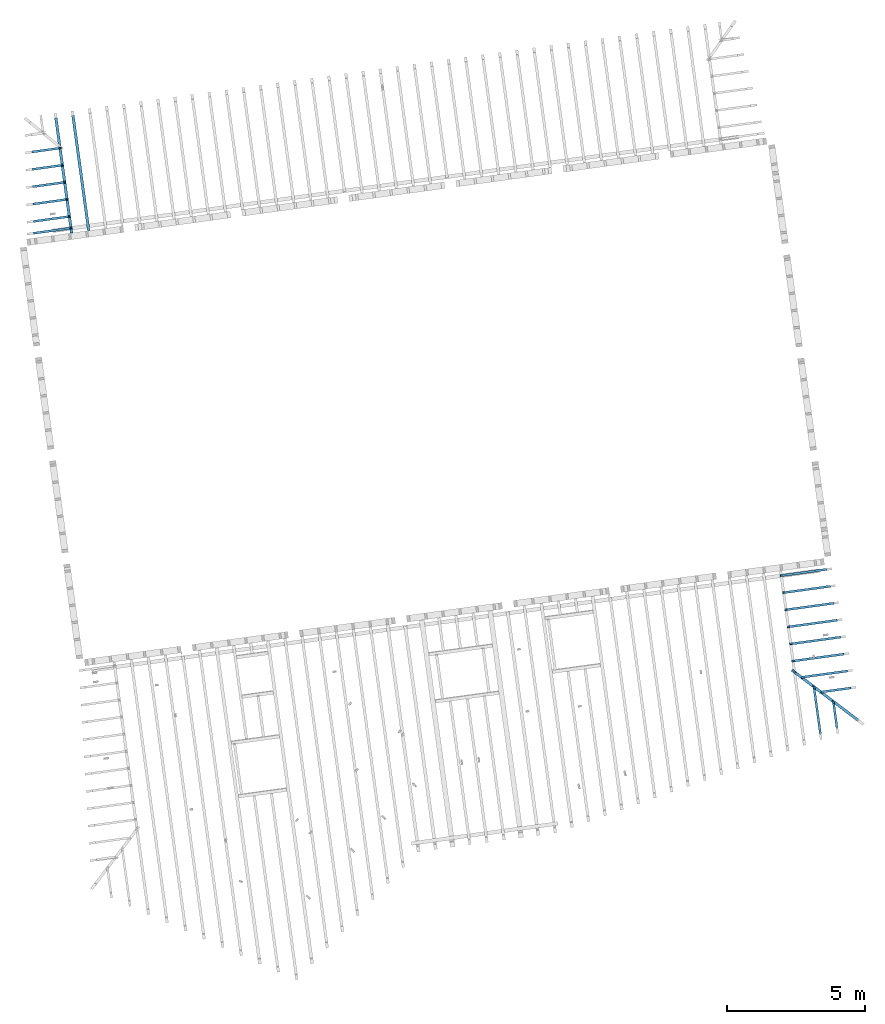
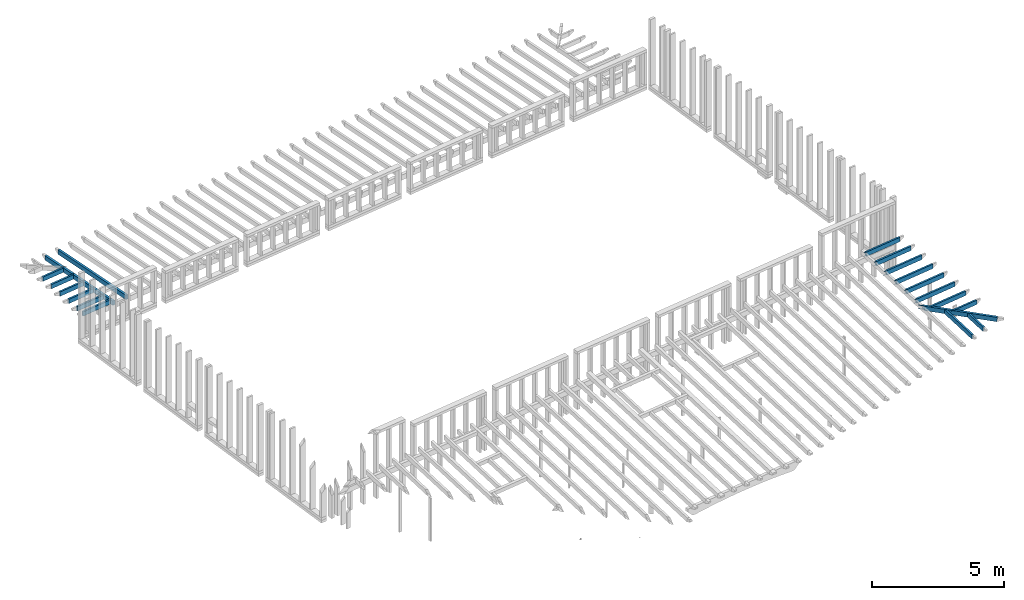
# One storey, part 9 of 16: 19 building element parts, 19 elements without a shape of their own.
"""IFC2X3 building model written with IfcOpenShell, lengths in metres."""

import ifcopenshell
import ifcopenshell.guid

model = None  # the IFC model being written
_history = None  # IfcOwnerHistory: only IFC2X3 demands one
_inside = {}  # id of a spatial element -> (the spatial element, [elements in it])
_under = {}  # id of a project, library or spatial element -> (it, [spatial elements below it])
_declared = {}  # id of a project -> (the project, [libraries it declares])
_typed = {}  # id of a type object -> (the type object, [elements of that type])
_made_of = {}  # id of a material, layer set ... -> (it, [elements and type objects made of it])


def new_model(schema):
    """Start an empty IFC model of exactly this schema.

    Asked for "IFC4X3", IfcOpenShell would pick the latest addendum, in which some entities
    have other attributes; the version numbers below select the first issue.
    IFC2X3 requires an IfcOwnerHistory on every rooted entity: one is made here for all.
    """
    global model, _history
    if schema == "IFC4X3":
        model = ifcopenshell.file(schema_version=(4, 3, 0, 0))
    else:
        model = ifcopenshell.file(schema=schema)
    _inside.clear()
    _under.clear()
    _declared.clear()
    _typed.clear()
    _made_of.clear()
    _history = None
    if model.schema == "IFC2X3":
        org = make("IfcOrganization", Name="unknown")
        user = make(
            "IfcPersonAndOrganization",
            ThePerson=make("IfcPerson", FamilyName="unknown"),
            TheOrganization=org,
        )
        app = make(
            "IfcApplication",
            ApplicationDeveloper=org,
            Version="unknown",
            ApplicationFullName="unknown",
            ApplicationIdentifier="unknown",
        )
        _history = make(
            "IfcOwnerHistory",
            OwningUser=user,
            OwningApplication=app,
            ChangeAction="ADDED",
            CreationDate=0,
        )
    return model


def make(cls, **values):
    """One entity of the class cls with the attributes given. An attribute that is None is left unset."""
    return model.create_entity(
        cls, **{name: value for name, value in values.items() if value is not None}
    )


def entity(cls, *values):
    """Any entity or typed value of the class cls, its attributes in the order of the schema. None: left unset."""
    e = model.create_entity(cls)
    for i, value in enumerate(values):
        if value is not None:
            e[i] = value
    return e


def rooted(cls, **values):
    """An entity with a GlobalId (a new one), such as an element, a storey or a relation."""
    return make(cls, GlobalId=ifcopenshell.guid.new(), OwnerHistory=_history, **values)


def si_unit(unit_type, name, prefix=None):
    """IfcSIUnit, for example si_unit("LENGTHUNIT", "METRE", prefix="MILLI")."""
    return make("IfcSIUnit", UnitType=unit_type, Prefix=prefix, Name=name)


def converted_unit(unit_type, name, factor, base, dimensions=None, offset=None):
    """IfcConversionBasedUnit, such as the inch: factor (a typed value) times the base unit."""
    return make(
        "IfcConversionBasedUnit"
        if offset is None
        else "IfcConversionBasedUnitWithOffset",
        ConversionOffset=offset,
        Dimensions=None
        if dimensions is None
        else entity("IfcDimensionalExponents", *dimensions),
        UnitType=unit_type,
        Name=name,
        ConversionFactor=make(
            "IfcMeasureWithUnit", ValueComponent=factor, UnitComponent=base
        ),
    )


def derived_unit(unit_type, elements):
    """IfcDerivedUnit: a product of units, each with its exponent."""
    return make(
        "IfcDerivedUnit",
        Elements=[
            make("IfcDerivedUnitElement", Unit=unit, Exponent=power)
            for unit, power in elements
        ],
        UnitType=unit_type,
    )


def money_unit(currency):
    """IfcMonetaryUnit."""
    return make("IfcMonetaryUnit", Currency=currency)


def assignment(units):
    """IfcUnitAssignment: the units of a project."""
    return None if units is None else make("IfcUnitAssignment", Units=units)


def point(xyz):
    """IfcCartesianPoint."""
    return None if xyz is None else make("IfcCartesianPoint", Coordinates=xyz)


def direction(xyz):
    """IfcDirection."""
    return None if xyz is None else make("IfcDirection", DirectionRatios=xyz)


def frame(location, z_axis=None, x_axis=None):
    """IfcAxis2Placement3D, a coordinate frame: its origin and axes. An axis left out is left unset."""
    return make(
        "IfcAxis2Placement3D",
        Location=point(location),
        Axis=direction(z_axis),
        RefDirection=direction(x_axis),
    )


def origin_with_axes():
    """The frame at (0, 0, 0) with the z axis (0, 0, 1) and the x axis (1, 0, 0) written out."""
    return frame((0.0, 0.0, 0.0), z_axis=(0.0, 0.0, 1.0), x_axis=(1.0, 0.0, 0.0))


def place(relative_to, where):
    """IfcLocalPlacement: puts the frame where relative to a parent placement (None: the world)."""
    return make(
        "IfcLocalPlacement", PlacementRelTo=relative_to, RelativePlacement=where
    )


def context(
    kind, dimensions, precision=None, world=None, true_north=None, identifier=None
):
    """IfcGeometricRepresentationContext, for example the 3D "Model" context."""
    return make(
        "IfcGeometricRepresentationContext",
        ContextIdentifier=identifier,
        ContextType=kind,
        CoordinateSpaceDimension=dimensions,
        Precision=precision,
        WorldCoordinateSystem=world,
        TrueNorth=true_north,
    )


def subcontext(parent, identifier, kind, view, scale=None):
    """IfcGeometricRepresentationSubContext, for example "Body" below "Model"."""
    return make(
        "IfcGeometricRepresentationSubContext",
        ContextIdentifier=identifier,
        ContextType=kind,
        ParentContext=parent,
        TargetScale=scale,
        TargetView=view,
    )


def project(units=None, contexts=None):
    """IfcProject with its units and contexts."""
    return rooted(
        "IfcProject",
        Name="project",
        RepresentationContexts=contexts,
        UnitsInContext=assignment(units),
    )


def spatial(cls, under=None, at=None, **own):
    """A site, building, storey or space (cls), placed at a placement, below another one or the project."""
    s = rooted(cls, ObjectPlacement=at, **own)
    if under is not None:
        _under.setdefault(under.id(), (under, []))[1].append(s)
    return s


def faces_of(points, faces, orient=None, outer=None):
    """IfcFace entities. A face is a list of loops; a loop is a list of indices into points, from 0.

    orient and outer hold one flag for each loop. By default every Orientation is true, the
    first loop of a face is its IfcFaceOuterBound and the others are IfcFaceBound.
    """
    made = []
    for i, loops in enumerate(faces):
        bounds = []
        for j, loop in enumerate(loops):
            is_outer = j == 0 if outer is None else outer[i][j]
            bounds.append(
                make(
                    "IfcFaceOuterBound" if is_outer else "IfcFaceBound",
                    Bound=make("IfcPolyLoop", Polygon=[points[k] for k in loop]),
                    Orientation=True if orient is None else orient[i][j],
                )
            )
        made.append(make("IfcFace", Bounds=bounds))
    return made


def faceted_brep(points, faces, orient=None, outer=None, voids=None):
    """IfcFacetedBrep: a solid bounded by flat faces; with voids (closed shells), ...WithVoids."""
    shared = [point(p) for p in points]
    hull = make("IfcClosedShell", CfsFaces=faces_of(shared, faces, orient, outer))
    if voids is None:
        return make("IfcFacetedBrep", Outer=hull)
    return make(
        "IfcFacetedBrepWithVoids",
        Outer=hull,
        Voids=[
            make(cls, CfsFaces=faces_of(shared, fs, o, b)) for cls, fs, o, b in voids
        ],
    )


def shape(context_of_items, identifier, shape_type, items):
    """IfcShapeRepresentation: the items that make up one representation, for example the "Body"."""
    return make(
        "IfcShapeRepresentation",
        ContextOfItems=context_of_items,
        RepresentationIdentifier=identifier,
        RepresentationType=shape_type,
        Items=items,
    )


def material(Name=None, Category=None):
    """IfcMaterial."""
    return make("IfcMaterial", Name=Name, Category=Category)


def made_of(thing, what):
    """Note that an element or type object is made of a material, layer set ...; save() writes the relation."""
    if what is not None:
        _made_of.setdefault(what.id(), (what, []))[1].append(thing)
    return thing


def type_object(cls, material=None, **own):
    """A type object (cls), such as IfcWallType, which elements share."""
    return made_of(rooted(cls, **own), material)


def element(
    cls,
    number,
    at=None,
    inside=None,
    cuts=None,
    type_object=None,
    material=None,
    context=None,
    identifier="Body",
    shape_type=None,
    held_by="IfcProductDefinitionShape",
    body=None,
    shapes=None,
    **own,
):
    """One element of the class cls, such as IfcWall. Its Tag is "e" and its number.

    at: its placement. inside: the storey or other place that contains it. cuts: it is an
    opening in that element (IfcRelVoidsElement). A single representation is given by context,
    identifier, shape_type and body (its items); several are given by shapes. held_by: the class
    of the entity that holds the representations. save() writes the other relations.
    """
    e = rooted(cls, Tag="e%d" % number, ObjectPlacement=at, **own)
    if body is not None:
        shapes = [shape(context, identifier, shape_type, body)]
    if shapes is not None:
        e.Representation = make(held_by, Representations=shapes)
    if inside is not None:
        _inside.setdefault(inside.id(), (inside, []))[1].append(e)
    if cuts is not None:
        rooted(
            "IfcRelVoidsElement", RelatingBuildingElement=cuts, RelatedOpeningElement=e
        )
    if type_object is not None:
        _typed.setdefault(type_object.id(), (type_object, []))[1].append(e)
    return made_of(e, material)


def aggregate(whole, parts):
    """IfcRelAggregates: a whole, such as a stair, and the parts it consists of."""
    return rooted("IfcRelAggregates", RelatingObject=whole, RelatedObjects=parts)


def save(model, path):
    """Write the relations noted so far, then the file.

    IfcRelAggregates (storeys below a building ...), IfcRelContainedInSpatialStructure (elements
    in a storey), IfcRelDefinesByType, IfcRelAssociatesMaterial and IfcRelDeclares: one each for
    every whole, place, type object, material and project.
    """
    for whole, parts in _under.values():
        aggregate(whole, parts)
    for where, things in _inside.values():
        rooted(
            "IfcRelContainedInSpatialStructure",
            RelatedElements=things,
            RelatingStructure=where,
        )
    for kind, things in _typed.values():
        rooted("IfcRelDefinesByType", RelatedObjects=things, RelatingType=kind)
    for what, things in _made_of.values():
        rooted("IfcRelAssociatesMaterial", RelatedObjects=things, RelatingMaterial=what)
    for by, libraries in _declared.values():
        rooted("IfcRelDeclares", RelatingContext=by, RelatedDefinitions=libraries)
    model.write(path)


model = new_model("IFC2X3")

# Units and contexts
model_context = context("Model", 3, precision=1e-05, world=origin_with_axes(), true_north=direction((0.0, 1.0)))
body_context = subcontext(model_context, "Body", "Model", "MODEL_VIEW")
ifc_project = project(units=[si_unit("LENGTHUNIT", "METRE"), si_unit("AREAUNIT", "SQUARE_METRE"), si_unit("VOLUMEUNIT", "CUBIC_METRE"), converted_unit("PLANEANGLEUNIT", "DEGREE", entity("IfcPlaneAngleMeasure", 0.0174532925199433), si_unit("PLANEANGLEUNIT", "RADIAN"), dimensions=[0, 0, 0, 0, 0, 0, 0]), money_unit("EUR"), converted_unit("TIMEUNIT", "Year", entity("IfcTimeMeasure", 31557600.0), si_unit("TIMEUNIT", "SECOND"), dimensions=[0, 0, 1, 0, 0, 0, 0]), si_unit("MASSUNIT", "GRAM", prefix="KILO"), si_unit("THERMODYNAMICTEMPERATUREUNIT", "DEGREE_CELSIUS"), si_unit("LUMINOUSINTENSITYUNIT", "LUMEN"), si_unit("ENERGYUNIT", "JOULE", prefix="MEGA"), derived_unit("THERMALCONDUCTANCEUNIT", [(si_unit("POWERUNIT", "WATT"), 1), (si_unit("LENGTHUNIT", "METRE"), -1), (si_unit("THERMODYNAMICTEMPERATUREUNIT", "KELVIN"), -1)]), derived_unit("SPECIFICHEATCAPACITYUNIT", [(si_unit("ENERGYUNIT", "JOULE"), 1), (si_unit("MASSUNIT", "GRAM", prefix="KILO"), -1), (si_unit("THERMODYNAMICTEMPERATUREUNIT", "KELVIN"), -1)]), derived_unit("MASSDENSITYUNIT", [(si_unit("MASSUNIT", "GRAM", prefix="KILO"), 1), (si_unit("VOLUMEUNIT", "CUBIC_METRE"), -1)])], contexts=[model_context])

# Site, building, storey
site_placement = place(None, origin_with_axes())
site = spatial("IfcSite", under=ifc_project, at=site_placement, Name="Gelände", CompositionType="ELEMENT")
building_placement = place(site_placement, origin_with_axes())
building = spatial("IfcBuilding", under=site, at=building_placement, Name="Gebäude", CompositionType="ELEMENT")
storey_placement = place(building_placement, frame((0.0, 0.0, 3.0), z_axis=(0.0, 0.0, 1.0), x_axis=(1.0, 0.0, 0.0)))
storey = spatial("IfcBuildingStorey", under=building, at=storey_placement, Name="ZG", CompositionType="ELEMENT", Elevation=3.0)

# Beam, building element part
beam_type_1 = type_object("IfcBeamType", Name="Verschiedene Strukturen - 2 Segmente - 100 x 200 x 4381 (4214+167)", PredefinedType="NOTDEFINED")
beam_1_placement = place(storey_placement, frame((86.89870892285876, -135.3424017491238, 1.028226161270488), z_axis=(0.0, 0.0, 1.0), x_axis=(0.9907484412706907, 0.1357111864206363, 0.0)))
beam_1 = element("IfcBeam", 1, at=beam_1_placement, inside=storey, type_object=beam_type_1, Name="Unterzug-034")
ifc_material = material(Name="Holz, Bauholz-hart")
building_element_part_1_placement = place(beam_1_placement, origin_with_axes())
building_element_part_1 = element("IfcBuildingElementPart", 2, at=building_element_part_1_placement, material=ifc_material, Name="Holz, Bauholz-hart", context=body_context, shape_type="Brep", body=[
    faceted_brep([(-0.04999999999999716, 0.0, -0.2002744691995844), (-0.04999999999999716, 4.197525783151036, -0.4202574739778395), (0.05000000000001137, 4.197525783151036, -0.4202574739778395), (0.04999999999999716, 0.0, -0.2002744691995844), (-0.04999999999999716, 0.0, 0.0), (-0.04999999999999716, 4.207992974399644, -0.2205315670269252), (0.04999999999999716, 4.207992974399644, -0.2205315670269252), (0.04999999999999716, 0.0, 0.0)], [[[0, 1, 2, 3]], [[4, 5, 1, 0]], [[2, 1, 5, 6]], [[3, 2, 6, 7]], [[4, 0, 3, 7]], [[7, 6, 5, 4]]]),
])
aggregate(beam_1, [building_element_part_1])

beam_type_2 = type_object("IfcBeamType", Name="Verschiedene Strukturen - 2 Segmente - 80 x 200 x 1897 (183+1715)", PredefinedType="NOTDEFINED")
beam_2_placement = place(storey_placement, frame((113.8209712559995, -147.5921326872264, 1.799619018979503), z_axis=(0.0, 0.0, 1.0), x_axis=(-0.135711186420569, 0.9907484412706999, 0.0)))
beam_2 = element("IfcBeam", 3, at=beam_2_placement, inside=storey, type_object=beam_type_2, Name="Unterzug-034")
building_element_part_2_placement = place(beam_2_placement, origin_with_axes())
building_element_part_2 = element("IfcBuildingElementPart", 4, at=building_element_part_2_placement, material=ifc_material, Name="Holz, Bauholz-hart", context=body_context, shape_type="Brep", body=[
    faceted_brep([(-0.03999999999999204, 1.897343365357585, -0.005621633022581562), (-0.03999999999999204, 1.797343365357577, -0.005621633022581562), (-0.03999999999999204, 1.797343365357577, -0.2000000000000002), (-0.03999999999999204, 0.1825028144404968, -0.2000000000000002), (-0.03999999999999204, 0.1825028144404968, 0.0), (-0.03999999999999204, 1.8973433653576, 0.0), (-2.60078536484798e-09, 1.797343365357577, 0.0), (-2.600671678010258e-09, 1.897343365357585, 0.0), (0.01398535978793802, 1.797343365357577, -0.2000000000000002), (0.04000000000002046, 1.797343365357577, 0.0), (0.04000000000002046, 1.797343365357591, -0.1963438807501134), (0.01398535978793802, 1.897343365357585, -0.2000000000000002), (0.03999999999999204, 1.897343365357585, -0.2000000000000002), (0.04000000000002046, 0.182502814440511, -0.2000000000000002), (0.04000000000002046, 0.182502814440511, 0.0), (0.03999999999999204, 1.897343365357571, -0.1963438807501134)], [[[0, 1, 2, 3, 4, 5]], [[6, 1, 0, 7]], [[8, 2, 1, 6, 9, 10]], [[2, 8, 11, 12, 13, 3]], [[13, 14, 4, 3]], [[9, 6, 7, 5, 4, 14]], [[5, 7, 0]], [[15, 10, 9, 14, 13, 12]], [[15, 11, 8, 10]], [[12, 11, 15]]]),
])
aggregate(beam_2, [building_element_part_2])

beam_type_3 = type_object("IfcBeamType", Name="Verschiedene Strukturen - 2 Segmente - 80 x 200 x 1981 (183+1798)", PredefinedType="NOTDEFINED")
beam_3_placement = place(storey_placement, frame((114.5740553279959, -151.2739937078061, 1.272590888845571), z_axis=(0.0, 0.0, 1.0), x_axis=(-0.1357111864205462, 0.990748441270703, 0.0)))
beam_3 = element("IfcBeam", 5, at=beam_3_placement, inside=storey, type_object=beam_type_3, Name="Unterzug-034")
building_element_part_3_placement = place(beam_3_placement, origin_with_axes())
building_element_part_3 = element("IfcBuildingElementPart", 6, at=building_element_part_3_placement, material=ifc_material, Name="Holz, Bauholz-hart", context=body_context, shape_type="Brep", body=[
    faceted_brep([(-0.03999999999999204, 1.900763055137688, -0.0006527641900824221), (-0.03999999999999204, 1.759341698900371, -0.01059050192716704), (-0.03999999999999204, 1.759341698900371, -0.2000000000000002), (-0.03999999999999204, 0.1825028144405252, -0.2000000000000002), (-0.03999999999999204, 0.1825028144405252, 0.0), (-0.03999999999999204, 1.980763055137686, 0.0), (-0.03999999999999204, 1.980763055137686, -0.0006527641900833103), (0.03535533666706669, 1.834697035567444, 0.0), (-0.03535534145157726, 1.905407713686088, 0.0), (0.04000000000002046, 1.839341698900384, -0.2000000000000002), (0.03999999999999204, 1.839341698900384, 0.0), (0.04000000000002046, 0.182502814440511, -0.2000000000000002), (0.04000000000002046, 0.182502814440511, 0.0), (-0.03535534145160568, 1.980763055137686, 0.0)], [[[0, 1, 2, 3, 4, 5, 6]], [[7, 1, 0, 8]], [[9, 2, 1, 7, 10]], [[3, 2, 9, 11]], [[11, 12, 4, 3]], [[10, 7, 8, 13, 5, 4, 12]], [[6, 5, 13]], [[13, 8, 0, 6]], [[11, 9, 10, 12]]]),
])
aggregate(beam_3, [building_element_part_3])

beam_type_4 = type_object("IfcBeamType", Name="Verschiedene Strukturen - 2 Segmente - 80 x 200 x 1397 (183+1214)", PredefinedType="NOTDEFINED")
beam_4_placement = place(storey_placement, frame((114.6995693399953, -151.8876372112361, 1.184752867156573), z_axis=(0.0, 0.0, 1.0), x_axis=(-0.1357111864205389, 0.990748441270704, 0.0)))
beam_4 = element("IfcBeam", 7, at=beam_4_placement, inside=storey, type_object=beam_type_4, Name="Unterzug-034")
building_element_part_4_placement = place(beam_4_placement, origin_with_axes())
building_element_part_4 = element("IfcBuildingElementPart", 8, at=building_element_part_4_placement, material=ifc_material, Name="Holz, Bauholz-hart", context=body_context, shape_type="Brep", body=[
    faceted_brep([(-0.03999999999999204, 1.316837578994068, -0.0006527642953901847), (-0.03999999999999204, 1.175416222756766, -0.01059050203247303), (-0.03999999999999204, 1.175416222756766, -0.2000000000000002), (-0.04000000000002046, 0.182502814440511, -0.2000000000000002), (-0.04000000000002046, 0.182502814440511, 0.0), (-0.03999999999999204, 1.396837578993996, 0.0), (-0.03999999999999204, 1.396837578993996, -0.000652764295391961), (0.03535533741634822, 1.250771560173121, 0.0), (-0.03535534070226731, 1.321482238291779, 0.0), (0.03999999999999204, 1.255416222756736, -0.2000000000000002), (0.03999999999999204, 1.255416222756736, 0.0), (0.03999999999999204, 0.182502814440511, -0.2000000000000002), (0.03999999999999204, 0.182502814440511, 0.0), (-0.03535534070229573, 1.396837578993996, 0.0)], [[[0, 1, 2, 3, 4, 5, 6]], [[7, 1, 0, 8]], [[9, 2, 1, 7, 10]], [[3, 2, 9, 11]], [[11, 12, 4, 3]], [[10, 7, 8, 13, 5, 4, 12]], [[6, 5, 13]], [[13, 8, 0, 6]], [[11, 9, 10, 12]]]),
])
aggregate(beam_4, [building_element_part_4])

beam_type_5 = type_object("IfcBeamType", Name="Verschiedene Strukturen - 2 Segmente - 80 x 200 x 1979 (183+1797)", PredefinedType="NOTDEFINED")
beam_5_placement = place(storey_placement, frame((114.0719992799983, -148.8194196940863, 1.623942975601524), z_axis=(0.0, 0.0, 1.0), x_axis=(-0.1357111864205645, 0.9907484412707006, 0.0)))
beam_5 = element("IfcBeam", 9, at=beam_5_placement, inside=storey, type_object=beam_type_5, Name="Unterzug-034")
building_element_part_5_placement = place(beam_5_placement, origin_with_axes())
building_element_part_5 = element("IfcBuildingElementPart", 10, at=building_element_part_5_placement, material=ifc_material, Name="Holz, Bauholz-hart", context=body_context, shape_type="Brep", body=[
    faceted_brep([(-0.03999999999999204, 1.979492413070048, -0.005621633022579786), (-0.03999999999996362, 1.879492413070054, -0.005621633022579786), (-0.03999999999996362, 1.879492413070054, -0.2000000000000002), (-0.03999999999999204, 0.1825028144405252, -0.2000000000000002), (-0.03999999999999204, 0.1825028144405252, 0.0), (-0.03999999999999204, 1.979492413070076, 0.0), (-2.600756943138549e-09, 1.879492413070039, 0.0), (-2.600756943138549e-09, 1.979492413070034, 0.0), (0.01398535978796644, 1.879492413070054, -0.2000000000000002), (0.04000000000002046, 1.879492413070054, 0.0), (0.04000000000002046, 1.879492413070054, -0.1963438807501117), (0.01398535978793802, 1.979492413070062, -0.2000000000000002), (0.03999999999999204, 1.979492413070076, -0.2000000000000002), (0.04000000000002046, 0.182502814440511, -0.2000000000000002), (0.04000000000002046, 0.182502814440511, 0.0), (0.03999999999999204, 1.979492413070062, -0.1963438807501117)], [[[0, 1, 2, 3, 4, 5]], [[6, 1, 0, 7]], [[8, 2, 1, 6, 9, 10]], [[2, 8, 11, 12, 13, 3]], [[13, 14, 4, 3]], [[9, 6, 7, 5, 4, 14]], [[5, 7, 0]], [[15, 10, 9, 14, 13, 12]], [[15, 11, 8, 10]], [[12, 11, 15]]]),
])
aggregate(beam_5, [building_element_part_5])

beam_type_6 = type_object("IfcBeamType", Name="Verschiedene Strukturen - 2 Segmente - 80 x 200 x 1938 (183+1756)", PredefinedType="NOTDEFINED")
beam_6_placement = place(storey_placement, frame((113.9464852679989, -148.2057761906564, 1.711780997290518), z_axis=(0.0, 0.0, 1.0), x_axis=(-0.1357111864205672, 0.9907484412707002, 0.0)))
beam_6 = element("IfcBeam", 11, at=beam_6_placement, inside=storey, type_object=beam_type_6, Name="Unterzug-034")
building_element_part_6_placement = place(beam_6_placement, origin_with_axes())
building_element_part_6 = element("IfcBuildingElementPart", 12, at=building_element_part_6_placement, material=ifc_material, Name="Holz, Bauholz-hart", context=body_context, shape_type="Brep", body=[
    faceted_brep([(-0.03999999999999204, 1.938417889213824, -0.005621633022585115), (-0.03999999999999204, 1.838417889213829, -0.005621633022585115), (-0.03999999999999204, 1.838417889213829, -0.2000000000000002), (-0.03999999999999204, 0.1825028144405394, -0.2000000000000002), (-0.03999999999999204, 0.1825028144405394, 0.0), (-0.03999999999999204, 1.938417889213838, 0.0), (-2.600728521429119e-09, 1.838417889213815, 0.0), (-2.600728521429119e-09, 1.938417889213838, 0.0), (0.01398535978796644, 1.838417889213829, -0.2000000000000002), (0.04000000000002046, 1.838417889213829, 0.0), (0.04000000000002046, 1.838417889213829, -0.196343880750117), (0.01398535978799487, 1.938417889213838, -0.2000000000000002), (0.04000000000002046, 1.938417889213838, -0.2000000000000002), (0.04000000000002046, 0.1825028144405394, -0.2000000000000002), (0.04000000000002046, 0.1825028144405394, 0.0), (0.04000000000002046, 1.938417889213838, -0.196343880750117)], [[[0, 1, 2, 3, 4, 5]], [[6, 1, 0, 7]], [[8, 2, 1, 6, 9, 10]], [[2, 8, 11, 12, 13, 3]], [[13, 14, 4, 3]], [[9, 6, 7, 5, 4, 14]], [[5, 7, 0]], [[15, 10, 9, 14, 13, 12]], [[15, 11, 8, 10]], [[12, 11, 15]]]),
])
aggregate(beam_6, [building_element_part_6])

beam_type_7 = type_object("IfcBeamType", Name="Verschiedene Strukturen - 2 Segmente - 100 x 200 x 3283 (248+3035)", PredefinedType="NOTDEFINED")
beam_7_placement = place(storey_placement, frame((114.9690103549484, -153.2338985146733, 0.9921595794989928), z_axis=(0.0, 0.0, 1.0), x_axis=(0.604602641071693, 0.7965272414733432, 0.0)))
beam_7 = element("IfcBeam", 13, at=beam_7_placement, inside=storey, type_object=beam_type_7, Name="Unterzug-034")
building_element_part_7_placement = place(beam_7_placement, origin_with_axes())
building_element_part_7 = element("IfcBuildingElementPart", 14, at=building_element_part_7_placement, material=ifc_material, Name="Holz, Bauholz-hart", context=body_context, shape_type="Brep", body=[
    faceted_brep([(-0.04999999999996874, 3.159006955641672, 0.3089649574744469), (-0.04999999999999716, 3.017585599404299, 0.2949108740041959), (-0.04999999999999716, 3.017585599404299, 0.09889458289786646), (-0.04999999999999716, 0.2586016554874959, -0.1752860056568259), (-0.04999999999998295, 0.2388236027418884, 0.0237336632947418), (-0.04999999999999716, 3.259006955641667, 0.3238715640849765), (-0.04999999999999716, 3.259006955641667, 0.3189026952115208), (0.0, 3.067585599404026, 0.3048486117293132), (1.693791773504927e-10, 3.20900695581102, 0.3189026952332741), (0.009864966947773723, 3.07745056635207, 0.1048438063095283), (0.04999999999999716, 3.117585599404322, 0.3098174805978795), (0.04999999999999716, 3.117585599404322, 0.1128208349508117), (0.009864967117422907, 3.218871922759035, 0.1188978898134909), (0.009864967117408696, 3.259006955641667, 0.1228864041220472), (0.05000000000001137, 3.259006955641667, 0.1228864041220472), (0.05000000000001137, 0.2586016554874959, -0.1752860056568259), (0.04999999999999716, 0.23882360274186, 0.0237336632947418), (1.693649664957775e-10, 3.259006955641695, 0.3238715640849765), (0.05000000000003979, 3.259006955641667, 0.12687491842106)], [[[0, 1, 2, 3, 4, 5, 6]], [[7, 1, 0, 8]], [[9, 2, 1, 7, 10, 11]], [[2, 9, 12, 13, 14, 15, 3]], [[15, 16, 4, 3]], [[10, 7, 8, 17, 5, 4, 16]], [[6, 5, 17]], [[17, 8, 0, 6]], [[18, 11, 10, 16, 15, 14]], [[18, 12, 9, 11]], [[13, 12, 18]], [[18, 14, 13]]]),
])
aggregate(beam_7, [building_element_part_7])

beam_type_8 = type_object("IfcBeamType", Name="Verschiedene Strukturen - 2 Segmente - 80 x 200 x 1968 (183+1786)", PredefinedType="NOTDEFINED")
beam_8_placement = place(storey_placement, frame((113.4342720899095, -153.776013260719, 0.9459471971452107), z_axis=(0.0, 0.0, 1.0), x_axis=(0.99074844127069, 0.1357111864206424, 0.0)))
beam_8 = element("IfcBeam", 15, at=beam_8_placement, inside=storey, type_object=beam_type_8, Name="Unterzug-034")
building_element_part_8_placement = place(beam_8_placement, origin_with_axes())
building_element_part_8 = element("IfcBuildingElementPart", 16, at=building_element_part_8_placement, material=ifc_material, Name="Holz, Bauholz-hart", context=body_context, shape_type="Brep", body=[
    faceted_brep([(0.04000000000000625, 0.2085613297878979, -0.1726541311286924), (0.03999999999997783, 1.896879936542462, 0.06462357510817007), (0.03999999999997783, 1.812218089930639, 0.05867435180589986), (0.03999999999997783, 1.812218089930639, 0.2546906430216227), (0.03999999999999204, 0.1807267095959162, 0.02539948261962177), (-0.04000000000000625, 0.2085613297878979, -0.1726541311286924), (-0.04000000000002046, 1.976879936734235, 0.07586684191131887), (-0.04000000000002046, 1.892218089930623, 0.0699176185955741), (-0.04000000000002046, 1.892218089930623, 0.2659339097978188), (-0.03999999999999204, 0.1807267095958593, 0.02539948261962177)], [[[0, 1, 2, 3, 4]], [[5, 6, 1, 0]], [[7, 2, 1, 6]], [[7, 8, 3, 2]], [[4, 3, 8, 9]], [[0, 4, 9, 5]], [[8, 7, 6, 5, 9]]]),
])
aggregate(beam_8, [building_element_part_8])

beam_9_placement = place(storey_placement, frame((86.27949114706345, -135.4272212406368, 1.028226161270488), z_axis=(0.0, 0.0, 1.0), x_axis=(0.9907484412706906, 0.1357111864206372, 0.0)))
beam_9 = element("IfcBeam", 17, at=beam_9_placement, inside=storey, type_object=beam_type_1, Name="Unterzug-034")
building_element_part_9_placement = place(beam_9_placement, origin_with_axes())
building_element_part_9 = element("IfcBuildingElementPart", 18, at=building_element_part_9_placement, material=ifc_material, Name="Holz, Bauholz-hart", context=body_context, shape_type="Brep", body=[
    faceted_brep([(-0.05000000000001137, 0.0, -0.2002744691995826), (-0.05000000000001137, 4.197525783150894, -0.4202574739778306), (0.05000000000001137, 4.197525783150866, -0.4202574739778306), (0.04999999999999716, 0.0, -0.2002744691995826), (-0.05000000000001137, 0.0, 0.0), (-0.04999999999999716, 4.207992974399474, -0.2205315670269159), (0.05000000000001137, 4.207992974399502, -0.2205315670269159), (0.04999999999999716, 0.0, 0.0)], [[[0, 1, 2, 3]], [[4, 5, 1, 0]], [[2, 1, 5, 6]], [[3, 2, 6, 7]], [[4, 0, 3, 7]], [[7, 6, 5, 4]]]),
])
aggregate(beam_9, [building_element_part_9])

beam_type_9 = type_object("IfcBeamType", Name="Verschiedene Strukturen - 2 Segmente - 80 x 200 x 2021 (183+1838)", PredefinedType="NOTDEFINED")
beam_10_placement = place(storey_placement, frame((114.1975132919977, -149.4330631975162, 1.536104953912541), z_axis=(0.0, 0.0, 1.0), x_axis=(-0.1357111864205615, 0.9907484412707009, 0.0)))
beam_10 = element("IfcBeam", 19, at=beam_10_placement, inside=storey, type_object=beam_type_9, Name="Unterzug-034")
building_element_part_10_placement = place(beam_10_placement, origin_with_axes())
building_element_part_10 = element("IfcBuildingElementPart", 20, at=building_element_part_10_placement, material=ifc_material, Name="Holz, Bauholz-hart", context=body_context, shape_type="Brep", body=[
    faceted_brep([(-0.03999999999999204, 2.020566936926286, -0.00562163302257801), (-0.04000000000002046, 1.920566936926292, -0.00562163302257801), (-0.04000000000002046, 1.920566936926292, -0.2000000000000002), (-0.03999999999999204, 0.1825028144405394, -0.2000000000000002), (-0.03999999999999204, 0.1825028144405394, 0.0), (-0.03999999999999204, 2.020566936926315, 0.0), (-2.60081378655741e-09, 1.920566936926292, 0.0), (-2.600756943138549e-09, 2.020566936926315, 0.0), (0.0139853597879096, 1.920566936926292, -0.2000000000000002), (0.03999999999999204, 1.920566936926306, 0.0), (0.03999999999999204, 1.920566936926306, -0.1963438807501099), (0.01398535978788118, 2.020566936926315, -0.2000000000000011), (0.03999999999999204, 2.020566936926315, -0.2000000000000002), (0.03999999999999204, 0.1825028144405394, -0.2000000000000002), (0.03999999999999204, 0.1825028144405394, 0.0), (0.03999999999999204, 2.020566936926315, -0.1963438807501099)], [[[0, 1, 2, 3, 4, 5]], [[6, 1, 0, 7]], [[8, 2, 1, 6, 9, 10]], [[2, 8, 11, 12, 13, 3]], [[13, 14, 4, 3]], [[9, 6, 7, 5, 4, 14]], [[5, 7, 0]], [[15, 10, 9, 14, 13, 12]], [[15, 11, 8, 10]], [[12, 11, 15]]]),
])
aggregate(beam_10, [building_element_part_10])

beam_type_10 = type_object("IfcBeamType", Name="Verschiedene Strukturen - 2 Segmente - 80 x 200 x 2103 (183+1920)", PredefinedType="NOTDEFINED")
beam_11_placement = place(storey_placement, frame((114.4485413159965, -150.6603502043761, 1.360428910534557), z_axis=(0.0, 0.0, 1.0), x_axis=(-0.1357111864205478, 0.9907484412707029, 0.0)))
beam_11 = element("IfcBeam", 21, at=beam_11_placement, inside=storey, type_object=beam_type_10, Name="Unterzug-034")
building_element_part_11_placement = place(beam_11_placement, origin_with_axes())
building_element_part_11 = element("IfcBuildingElementPart", 22, at=building_element_part_11_placement, material=ifc_material, Name="Holz, Bauholz-hart", context=body_context, shape_type="Brep", body=[
    faceted_brep([(-0.03999999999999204, 2.102715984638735, -0.00562163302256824), (-0.04000000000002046, 2.002715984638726, -0.005621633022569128), (-0.04000000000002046, 2.002715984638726, -0.2000000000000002), (-0.03999999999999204, 0.182502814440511, -0.2000000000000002), (-0.03999999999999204, 0.182502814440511, 0.0), (-0.03999999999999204, 2.102715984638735, 0.0), (-2.600870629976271e-09, 2.002715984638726, 0.0), (-2.60084220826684e-09, 2.102715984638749, 0.0), (0.01398535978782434, 2.002715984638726, -0.2000000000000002), (0.03999999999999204, 2.002715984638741, 0.0), (0.03999999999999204, 2.002715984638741, -0.196343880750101), (0.01398535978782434, 2.102715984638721, -0.2000000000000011), (0.03999999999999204, 2.102715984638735, -0.2000000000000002), (0.03999999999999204, 0.1825028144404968, -0.2000000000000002), (0.03999999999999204, 0.1825028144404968, 0.0), (0.03999999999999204, 2.102715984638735, -0.196343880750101)], [[[0, 1, 2, 3, 4, 5]], [[6, 1, 0, 7]], [[8, 2, 1, 6, 9, 10]], [[2, 8, 11, 12, 13, 3]], [[13, 14, 4, 3]], [[9, 6, 7, 5, 4, 14]], [[5, 7, 0]], [[15, 10, 9, 14, 13, 12]], [[15, 11, 8, 10]], [[12, 11, 15]]]),
])
aggregate(beam_11, [building_element_part_11])

beam_type_11 = type_object("IfcBeamType", Name="Verschiedene Strukturen - 2 Segmente - 80 x 200 x 1207 (183+1024)", PredefinedType="NOTDEFINED")
beam_12_placement = place(storey_placement, frame((114.0359940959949, -153.5634673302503, 0.9640656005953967), z_axis=(0.0, 0.0, 1.0), x_axis=(0.9907484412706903, 0.1357111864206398, 0.0)))
beam_12 = element("IfcBeam", 23, at=beam_12_placement, inside=storey, type_object=beam_type_11, Name="Unterzug-034")
building_element_part_12_placement = place(beam_12_placement, origin_with_axes())
building_element_part_12 = element("IfcBuildingElementPart", 24, at=building_element_part_12_placement, material=ifc_material, Name="Holz, Bauholz-hart", context=body_context, shape_type="Brep", body=[
    faceted_brep([(0.04000000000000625, 0.2085613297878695, -0.1726541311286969), (0.04000000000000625, 1.142960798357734, -0.04133284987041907), (0.04000000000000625, 1.058298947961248, -0.047282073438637), (0.03999999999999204, 1.058298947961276, 0.1487342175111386), (0.04000000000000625, 0.1807267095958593, 0.02539948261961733), (-0.04000000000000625, 0.208561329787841, -0.1726541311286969), (-0.04000000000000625, 1.222960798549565, -0.03008958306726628), (-0.03999999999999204, 1.13829894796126, -0.03603880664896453), (-0.04000000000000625, 1.13829894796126, 0.1599774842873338), (-0.03999999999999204, 0.1807267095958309, 0.02539948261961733)], [[[0, 1, 2, 3, 4]], [[5, 6, 1, 0]], [[7, 2, 1, 6]], [[7, 8, 3, 2]], [[4, 3, 8, 9]], [[0, 4, 9, 5]], [[8, 7, 6, 5, 9]]]),
])
aggregate(beam_12, [building_element_part_12])

beam_type_12 = type_object("IfcBeamType", Name="Verschiedene Strukturen - 2 Segmente - 80 x 200 x 2062 (183+1879)", PredefinedType="NOTDEFINED")
beam_13_placement = place(storey_placement, frame((114.3230273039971, -150.0467067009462, 1.448266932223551), z_axis=(0.0, 0.0, 1.0), x_axis=(-0.135711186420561, 0.9907484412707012, 0.0)))
beam_13 = element("IfcBeam", 25, at=beam_13_placement, inside=storey, type_object=beam_type_12, Name="Unterzug-034")
building_element_part_13_placement = place(beam_13_placement, origin_with_axes())
building_element_part_13 = element("IfcBuildingElementPart", 26, at=building_element_part_13_placement, material=ifc_material, Name="Holz, Bauholz-hart", context=body_context, shape_type="Brep", body=[
    faceted_brep([(-0.04000000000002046, 2.061641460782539, -0.005621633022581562), (-0.04000000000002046, 1.961641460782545, -0.005621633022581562), (-0.04000000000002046, 1.961641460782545, -0.2000000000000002), (-0.04000000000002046, 0.182502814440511, -0.2000000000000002), (-0.04000000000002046, 0.182502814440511, 0.0), (-0.04000000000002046, 2.061641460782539, 0.0), (-2.60078536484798e-09, 1.961641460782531, 0.0), (-2.60078536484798e-09, 2.061641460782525, 0.0), (0.0139853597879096, 1.961641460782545, -0.2000000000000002), (0.03999999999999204, 1.961641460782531, 0.0), (0.03999999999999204, 1.961641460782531, -0.1963438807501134), (0.0139853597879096, 2.061641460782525, -0.2000000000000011), (0.03999999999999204, 2.061641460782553, -0.2000000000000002), (0.03999999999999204, 0.182502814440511, -0.2000000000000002), (0.03999999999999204, 0.182502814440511, 0.0), (0.03999999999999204, 2.061641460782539, -0.1963438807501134)], [[[0, 1, 2, 3, 4, 5]], [[6, 1, 0, 7]], [[8, 2, 1, 6, 9, 10]], [[2, 8, 11, 12, 13, 3]], [[13, 14, 4, 3]], [[9, 6, 7, 5, 4, 14]], [[5, 7, 0]], [[15, 10, 9, 14, 13, 12]], [[15, 11, 8, 10]], [[12, 11, 15]]]),
])
aggregate(beam_13, [building_element_part_13])

beam_type_13 = type_object("IfcBeamType", Name="Verschiedene Strukturen - 2 Segmente - 80 x 200 x 1652 (1412+240)", PredefinedType="NOTDEFINED")
beam_14_placement = place(storey_placement, frame((86.2556638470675, -135.2532719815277, 1.019024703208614), z_axis=(0.0, 0.0, 1.0), x_axis=(-0.1357111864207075, 0.990748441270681, 0.0)))
beam_14 = element("IfcBeam", 27, at=beam_14_placement, inside=storey, type_object=beam_type_13, Name="Unterzug-034")
building_element_part_14_placement = place(beam_14_placement, origin_with_axes())
building_element_part_14 = element("IfcBuildingElementPart", 28, at=building_element_part_14_placement, material=ifc_material, Name="Holz, Bauholz-hart", context=body_context, shape_type="Brep", body=[
    faceted_brep([(-0.04000000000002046, -0.05000000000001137, -0.2000000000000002), (-0.005236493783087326, -0.04999999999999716, -0.1999999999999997), (-0.04000000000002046, -0.04999999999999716, -0.1981781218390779), (0.03999999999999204, 0.04999999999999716, -0.2000000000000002), (-0.005236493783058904, 0.05000000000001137, -0.2000000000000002), (-0.03999999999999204, 1.362367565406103, -0.2000000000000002), (0.03999999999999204, 1.362367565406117, -0.2000000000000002), (-0.04000000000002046, 0.05000000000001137, -0.1981781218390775), (-0.04000000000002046, 0.05000000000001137, 0.0), (-0.03999999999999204, 1.362367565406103, 0.0), (0.03999999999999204, 0.04999999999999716, -0.002096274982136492), (6.905307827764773e-07, 0.05000000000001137, 0.0), (0.03999999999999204, 1.362367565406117, 0.0), (0.03999999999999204, -0.05000000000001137, -0.002096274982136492), (0.03999999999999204, -0.05000000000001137, 0.0), (6.905308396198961e-07, -0.04999999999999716, 0.0)], [[[0, 1, 2]], [[3, 4, 1, 0, 5, 6]], [[4, 7, 2, 1]], [[2, 7, 8, 9, 5, 0]], [[10, 11, 8, 7, 4, 3]], [[9, 12, 6, 5]], [[13, 10, 3, 6, 12, 14]], [[8, 11, 15, 14, 12, 9]], [[10, 13, 15, 11]], [[14, 15, 13]]]),
])
aggregate(beam_14, [building_element_part_14])

beam_type_14 = type_object("IfcBeamType", Name="Verschiedene Strukturen - 2 Segmente - 80 x 200 x 1603 (1363+240)", PredefinedType="NOTDEFINED")
beam_15_placement = place(storey_placement, frame((86.1979865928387, -134.8322038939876, 0.9967513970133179), z_axis=(0.0, 0.0, 1.0), x_axis=(-0.1357111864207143, 0.9907484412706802, 0.0)))
beam_15 = element("IfcBeam", 29, at=beam_15_placement, inside=storey, type_object=beam_type_14, Name="Unterzug-034")
building_element_part_15_placement = place(beam_15_placement, origin_with_axes())
building_element_part_15 = element("IfcBuildingElementPart", 30, at=building_element_part_15_placement, material=ifc_material, Name="Holz, Bauholz-hart", context=body_context, shape_type="Brep", body=[
    faceted_brep([(-0.04000000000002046, -0.04999999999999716, -0.2000000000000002), (-0.005236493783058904, -0.05000000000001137, -0.1999999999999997), (-0.04000000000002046, -0.04999999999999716, -0.1981781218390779), (0.03999999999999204, 0.04999999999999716, -0.2000000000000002), (-0.005236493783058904, 0.05000000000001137, -0.2000000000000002), (-0.04000000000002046, 1.312948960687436, -0.2000000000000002), (0.03999999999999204, 1.312948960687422, -0.2000000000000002), (-0.03999999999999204, 0.05000000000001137, -0.198178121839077), (-0.03999999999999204, 0.04999999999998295, 0.0), (-0.04000000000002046, 1.312948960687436, 0.0), (0.03999999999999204, 0.04999999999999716, -0.002096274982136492), (6.905307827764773e-07, 0.05000000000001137, 0.0), (0.03999999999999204, 1.312948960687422, 0.0), (0.03999999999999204, -0.05000000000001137, -0.002096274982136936), (0.03999999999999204, -0.05000000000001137, 0.0), (6.905308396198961e-07, -0.05000000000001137, 0.0)], [[[0, 1, 2]], [[3, 4, 1, 0, 5, 6]], [[4, 7, 2, 1]], [[2, 7, 8, 9, 5, 0]], [[10, 11, 8, 7, 4, 3]], [[9, 12, 6, 5]], [[13, 10, 3, 6, 12, 14]], [[8, 11, 15, 14, 12, 9]], [[10, 13, 15, 11]], [[14, 15, 13]]]),
])
aggregate(beam_15, [building_element_part_15])

beam_type_15 = type_object("IfcBeamType", Name="Verschiedene Strukturen - 2 Segmente - 80 x 200 x 1530 (1290+240)", PredefinedType="NOTDEFINED")
beam_16_placement = place(storey_placement, frame((86.11316710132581, -134.2129861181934, 0.963996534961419), z_axis=(0.0, 0.0, 1.0), x_axis=(-0.1357111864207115, 0.9907484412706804, 0.0)))
beam_16 = element("IfcBeam", 31, at=beam_16_placement, inside=storey, type_object=beam_type_15, Name="Unterzug-034")
building_element_part_16_placement = place(beam_16_placement, origin_with_axes())
building_element_part_16 = element("IfcBuildingElementPart", 32, at=building_element_part_16_placement, material=ifc_material, Name="Holz, Bauholz-hart", context=body_context, shape_type="Brep", body=[
    faceted_brep([(-0.04000000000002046, -0.05000000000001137, -0.2000000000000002), (-0.005236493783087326, -0.04999999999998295, -0.1999999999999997), (-0.04000000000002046, -0.04999999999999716, -0.1981781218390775), (0.04000000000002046, 0.04999999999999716, -0.2000000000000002), (-0.005236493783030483, 0.05000000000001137, -0.2000000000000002), (-0.04000000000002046, 1.240274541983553, -0.2000000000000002), (0.03999999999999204, 1.240274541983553, -0.2000000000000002), (-0.04000000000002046, 0.05000000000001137, -0.198178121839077), (-0.04000000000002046, 0.05000000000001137, 0.0), (-0.04000000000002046, 1.240274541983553, 0.0), (0.04000000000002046, 0.04999999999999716, -0.002096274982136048), (6.905307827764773e-07, 0.05000000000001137, 0.0), (0.03999999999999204, 1.240274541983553, 0.0), (0.04000000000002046, -0.05000000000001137, -0.002096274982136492), (0.04000000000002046, -0.05000000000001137, 0.0), (6.905308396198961e-07, -0.04999999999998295, 0.0)], [[[0, 1, 2]], [[3, 4, 1, 0, 5, 6]], [[4, 7, 2, 1]], [[2, 7, 8, 9, 5, 0]], [[10, 11, 8, 7, 4, 3]], [[9, 12, 6, 5]], [[13, 10, 3, 6, 12, 14]], [[8, 11, 15, 14, 12, 9]], [[10, 13, 15, 11]], [[14, 15, 13]]]),
])
aggregate(beam_16, [building_element_part_16])

beam_type_16 = type_object("IfcBeamType", Name="Verschiedene Strukturen - 2 Segmente - 80 x 200 x 1458 (1218+240)", PredefinedType="NOTDEFINED")
beam_17_placement = place(storey_placement, frame((86.02834760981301, -133.5937683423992, 0.9312416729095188), z_axis=(0.0, 0.0, 1.0), x_axis=(-0.1357111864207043, 0.9907484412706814, 0.0)))
beam_17 = element("IfcBeam", 33, at=beam_17_placement, inside=storey, type_object=beam_type_16, Name="Unterzug-034")
building_element_part_17_placement = place(beam_17_placement, origin_with_axes())
building_element_part_17 = element("IfcBuildingElementPart", 34, at=building_element_part_17_placement, material=ifc_material, Name="Holz, Bauholz-hart", context=body_context, shape_type="Brep", body=[
    faceted_brep([(-0.03999999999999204, -0.0499999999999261, -0.2000000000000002), (-0.005236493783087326, -0.04999999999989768, -0.2000000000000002), (-0.03999999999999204, -0.04999999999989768, -0.1981781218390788), (0.04000000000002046, 0.05000000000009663, -0.2000000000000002), (-0.005236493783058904, 0.05000000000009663, -0.2000000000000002), (-0.04000000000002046, 1.167600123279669, -0.2000000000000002), (0.03999999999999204, 1.167600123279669, -0.2000000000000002), (-0.03999999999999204, 0.05000000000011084, -0.1981781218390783), (-0.03999999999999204, 0.05000000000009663, 0.0), (-0.04000000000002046, 1.167600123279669, 0.0), (0.04000000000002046, 0.05000000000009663, -0.002096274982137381), (6.905307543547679e-07, 0.05000000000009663, 0.0), (0.03999999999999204, 1.167600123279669, 0.0), (0.04000000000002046, -0.04999999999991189, -0.002096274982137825), (0.04000000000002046, -0.0499999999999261, 0.0), (6.905307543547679e-07, -0.04999999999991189, 0.0)], [[[0, 1, 2]], [[3, 4, 1, 0, 5, 6]], [[4, 7, 2, 1]], [[2, 7, 8, 9, 5, 0]], [[10, 11, 8, 7, 4, 3]], [[9, 12, 6, 5]], [[13, 10, 3, 6, 12, 14]], [[8, 11, 15, 14, 12, 9]], [[10, 13, 15, 11]], [[14, 15, 13]]]),
])
aggregate(beam_17, [building_element_part_17])

beam_type_17 = type_object("IfcBeamType", Name="Verschiedene Strukturen - 2 Segmente - 80 x 200 x 1385 (1145+240)", PredefinedType="NOTDEFINED")
beam_18_placement = place(storey_placement, frame((85.94352811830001, -132.9745505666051, 0.8984868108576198), z_axis=(0.0, 0.0, 1.0), x_axis=(-0.1357111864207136, 0.9907484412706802, 0.0)))
beam_18 = element("IfcBeam", 35, at=beam_18_placement, inside=storey, type_object=beam_type_17, Name="Unterzug-034")
building_element_part_18_placement = place(beam_18_placement, origin_with_axes())
building_element_part_18 = element("IfcBuildingElementPart", 36, at=building_element_part_18_placement, material=ifc_material, Name="Holz, Bauholz-hart", context=body_context, shape_type="Brep", body=[
    faceted_brep([(-0.04000000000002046, -0.04999999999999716, -0.2000000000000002), (-0.005236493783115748, -0.05000000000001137, -0.2000000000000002), (-0.04000000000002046, -0.05000000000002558, -0.1981781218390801), (0.04000000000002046, 0.04999999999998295, -0.2000000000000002), (-0.005236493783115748, 0.04999999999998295, -0.2000000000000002), (-0.04000000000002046, 1.09492570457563, -0.2000000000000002), (0.03999999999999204, 1.09492570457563, -0.2000000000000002), (-0.04000000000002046, 0.04999999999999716, -0.1981781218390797), (-0.04000000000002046, 0.04999999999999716, 0.0), (-0.04000000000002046, 1.09492570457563, 0.0), (0.04000000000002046, 0.04999999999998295, -0.002096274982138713), (6.905307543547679e-07, 0.04999999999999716, 0.0), (0.03999999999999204, 1.09492570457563, 0.0), (0.03999999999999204, -0.05000000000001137, -0.002096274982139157), (0.03999999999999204, -0.04999999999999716, 0.0), (6.905307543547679e-07, -0.05000000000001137, 0.0)], [[[0, 1, 2]], [[3, 4, 1, 0, 5, 6]], [[4, 7, 2, 1]], [[2, 7, 8, 9, 5, 0]], [[10, 11, 8, 7, 4, 3]], [[9, 12, 6, 5]], [[13, 10, 3, 6, 12, 14]], [[8, 11, 15, 14, 12, 9]], [[10, 13, 15, 11]], [[14, 15, 13]]]),
])
aggregate(beam_18, [building_element_part_18])

beam_type_18 = type_object("IfcBeamType", Name="Verschiedene Strukturen - 2 Segmente - 80 x 200 x 1312 (1072+240)", PredefinedType="NOTDEFINED")
beam_19_placement = place(storey_placement, frame((85.85870862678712, -132.3553327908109, 0.865731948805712), z_axis=(0.0, 0.0, 1.0), x_axis=(-0.1357111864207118, 0.9907484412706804, 0.0)))
beam_19 = element("IfcBeam", 37, at=beam_19_placement, inside=storey, type_object=beam_type_18, Name="Unterzug-034")
building_element_part_19_placement = place(beam_19_placement, origin_with_axes())
building_element_part_19 = element("IfcBuildingElementPart", 38, at=building_element_part_19_placement, material=ifc_material, Name="Holz, Bauholz-hart", context=body_context, shape_type="Brep", body=[
    faceted_brep([(-0.03999999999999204, -0.05000000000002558, -0.2000000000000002), (-0.005236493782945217, -0.04999999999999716, -0.1999999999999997), (-0.03999999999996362, -0.04999999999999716, -0.1981781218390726), (0.04000000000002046, 0.04999999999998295, -0.2000000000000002), (-0.005236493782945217, 0.04999999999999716, -0.2000000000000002), (-0.03999999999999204, 1.022251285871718, -0.2000000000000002), (0.03999999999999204, 1.022251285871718, -0.2000000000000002), (-0.03999999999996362, 0.05000000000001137, -0.1981781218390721), (-0.03999999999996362, 0.05000000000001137, 0.0), (-0.03999999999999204, 1.022251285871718, 0.0), (0.04000000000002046, 0.04999999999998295, -0.002096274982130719), (6.905309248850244e-07, 0.04999999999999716, 0.0), (0.03999999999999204, 1.022251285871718, 0.0), (0.04000000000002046, -0.05000000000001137, -0.002096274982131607), (0.04000000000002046, -0.05000000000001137, 0.0), (6.90530896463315e-07, -0.04999999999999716, 0.0)], [[[0, 1, 2]], [[3, 4, 1, 0, 5, 6]], [[4, 7, 2, 1]], [[2, 7, 8, 9, 5, 0]], [[10, 11, 8, 7, 4, 3]], [[9, 12, 6, 5]], [[13, 10, 3, 6, 12, 14]], [[8, 11, 15, 14, 12, 9]], [[10, 13, 15, 11]], [[14, 15, 13]]]),
])
aggregate(beam_19, [building_element_part_19])

save(model, "model.ifc")
